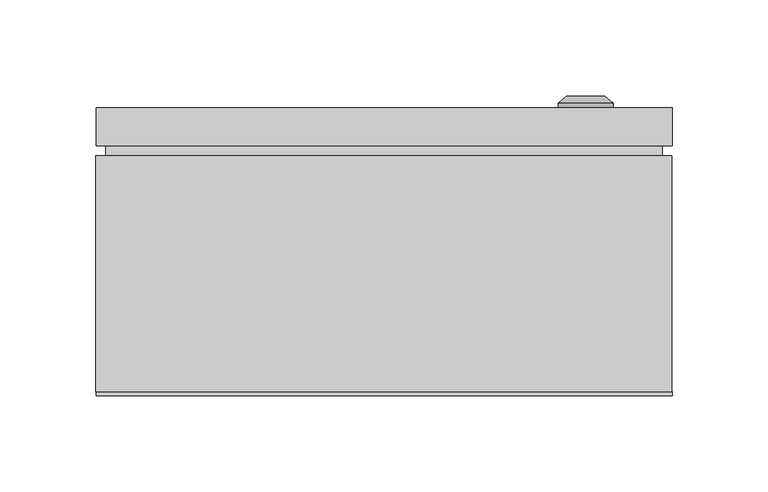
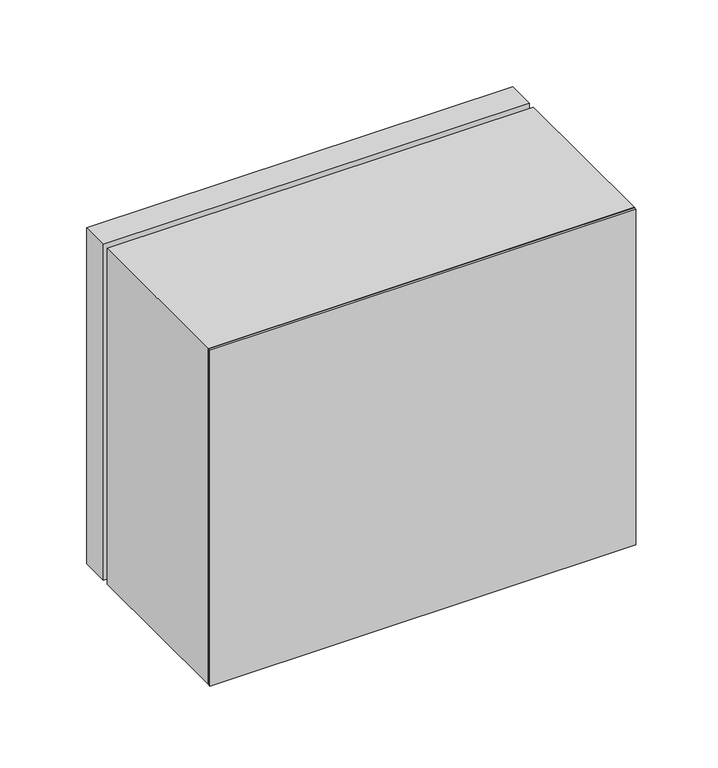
"""IFC4 building model written with IfcOpenShell, lengths in millimetres: proxy geometry, ЩМП_IP65 : ЩМП-2.3.1-0_250х300х150."""

from ifc_helpers import new_model, si_unit, frame, origin, origin_with_axes, place, context, project, spatial, polyline, circle_curve, outline, extrude, source, transform, mapped, element, save
from ifc_brep_helpers import plane_surface, cylinder_surface, revolved_surface, advanced_brep


def electrical_equipment_0470d7b7(model_context):
    return source(origin(), model_context, "Body", "SolidModel", [
        extrude(outline(polyline([(145.0, 125.0), (-145.0, 125.0), (-145.0, 130.0), (145.0, 130.0), (145.0, 125.0)])), frame((0.0, 0.0, 5.0), z_axis=(0.0, 0.0, 1.0), x_axis=(1.0, 0.0, 0.0)), (0.0, 0.0, 1.0), 240.0),
        extrude(outline(polyline([(150.0, 130.0), (-150.0, 130.0), (-150.0, 150.0), (150.0, 150.0), (150.0, 130.0)])), origin_with_axes(), (0.0, 0.0, 1.0), 250.0),
        advanced_brep(
        [(90.669873, 150.0, 125.0), (119.330127, 150.0, 125.0), (105.0, 150.0, 125.0), (90.669873, 152.366592, 125.0), (119.330127, 152.366592, 125.0), (95.0, 156.0, 125.0), (115.0, 156.0, 125.0), (103.1080471, 156.0, 125.0), (106.8919529, 156.0, 125.0), (103.1080471, 154.9822294, 125.0), (106.8919529, 154.9822294, 125.0), (105.0, 154.9822294, 125.0)],
        [
            (0, 1, circle_curve(frame((105.0, 150.0, 125.0), z_axis=(0.0, -1.0, 0.0), x_axis=(1.0, 0.0, 0.0)), 14.330127)),
            (1, 2),
            (2, 0),
            (1, 0, circle_curve(frame((105.0, 150.0, 125.0), z_axis=(0.0, -1.0, 0.0), x_axis=(1.0, 0.0, 0.0)), 14.330127)),
            (3, 4, circle_curve(frame((105.0, 152.366592, 125.0), z_axis=(0.0, -1.0, 0.0), x_axis=(1.0, 0.0, 0.0)), 14.330127)),
            (4, 1),
            (0, 3),
            (4, 3, circle_curve(frame((105.0, 152.366592, 125.0), z_axis=(0.0, -1.0, 0.0), x_axis=(1.0, 0.0, 0.0)), 14.330127)),
            (5, 6, circle_curve(frame((105.0, 156.0, 125.0), z_axis=(0.0, -1.0, 0.0), x_axis=(1.0, 0.0, 0.0)), 10.0)),
            (6, 4),
            (3, 5),
            (6, 5, circle_curve(frame((105.0, 156.0, 125.0), z_axis=(0.0, -1.0, 0.0), x_axis=(1.0, 0.0, 0.0)), 10.0)),
            (7, 8, circle_curve(frame((105.0, 156.0, 125.0), z_axis=(0.0, -1.0, 0.0), x_axis=(1.0, 0.0, 0.0)), 1.8919529)),
            (8, 6),
            (5, 7),
            (8, 7, circle_curve(frame((105.0, 156.0, 125.0), z_axis=(0.0, -1.0, 0.0), x_axis=(1.0, 0.0, 0.0)), 1.8919529)),
            (9, 10, circle_curve(frame((105.0, 154.9822294, 125.0), z_axis=(0.0, -1.0, 0.0), x_axis=(1.0, 0.0, 0.0)), 1.8919529)),
            (10, 8),
            (7, 9),
            (10, 9, circle_curve(frame((105.0, 154.9822294, 125.0), z_axis=(0.0, -1.0, 0.0), x_axis=(1.0, 0.0, 0.0)), 1.8919529)),
            (11, 10),
            (9, 11),
        ],
        [
            plane_surface(frame((105.0, 150.0, 125.0), z_axis=(0.0, -1.0, 0.0), x_axis=(1.0, 0.0, 0.0))),
            cylinder_surface(frame((105.0, 163.1348851, 125.0), z_axis=(0.0, 1.0, 0.0), x_axis=(1.0, 0.0, 0.0)), 14.330127),
            revolved_surface(polyline([(119.330127, 152.366592, 125.0), (115.0, 156.0, 125.0)]), (105.0, 163.1348851, 125.0), (0.0, 1.0, 0.0)),
            plane_surface(frame((105.0, 156.0, 125.0), z_axis=(0.0, 1.0, 0.0), x_axis=(1.0, 0.0, 0.0))),
            revolved_surface(polyline([(106.8919529, 156.0, 125.0), (106.8919529, 154.9822294, 125.0)]), (105.0, 163.1348851, 125.0), (0.0, 1.0, 0.0)),
            plane_surface(frame((105.0, 154.9822294, 125.0), z_axis=(0.0, 1.0, 0.0), x_axis=(1.0, 0.0, 0.0))),
        ],
        [
            (0, [[1, 2, 3]]),
            (0, [[4, -3, -2]]),
            (1, [[5, 6, -1, 7]]),
            (1, [[8, -7, -4, -6]]),
            (2, [[9, 10, -5, 11]]),
            (2, [[12, -11, -8, -10]]),
            (3, [[13, 14, -9, 15]]),
            (3, [[16, -15, -12, -14]]),
            (4, [[17, 18, -13, 19]]),
            (4, [[20, -19, -16, -18]]),
            (5, [[21, -17, 22]]),
            (5, [[-22, -20, -21]]),
        ],
    ),
        extrude(outline(polyline([(250.0, -150.0033905), (0.0, -150.0033905), (0.0, 149.9966095), (250.0, 149.9966095), (250.0, -150.0033905)]), holes=[polyline([(215.0, -115.0033905), (215.0, 114.9966095), (35.0, 114.9966095), (35.0, -115.0033905), (215.0, -115.0033905)])]), frame((0.0, 2.0, 0.0), z_axis=(0.0, 1.0, 0.0), x_axis=(0.0, 0.0, 1.0)), (0.0, 0.0, 1.0), 123.0),
        extrude(outline(polyline([(150.0, 0.0), (-150.0, 0.0), (-150.0, 2.0), (150.0, 2.0), (150.0, 0.0)])), origin_with_axes(), (0.0, 0.0, 1.0), 250.0),
    ])


if __name__ == "__main__":
    model = new_model("IFC4")
    model_context = context("Model", 3, world=origin())
    ifc_project = project(units=[si_unit("LENGTHUNIT", "METRE", prefix="MILLI")], contexts=[model_context])
    site = spatial("IfcSite", under=ifc_project)
    building = spatial("IfcBuilding", under=site)
    placement = place(None, origin())
    electrical_equipment_shape = electrical_equipment_0470d7b7(model_context)
    element("IfcBuildingElementProxy", 1, Name="ЩМП_IP65 : ЩМП-2.3.1-0_250х300х150", ObjectType="ЩМП_IP65 : ЩМП-2.3.1-0_250х300х150", at=placement, inside=building, context=model_context, shape_type="MappedRepresentation", body=[
        mapped(electrical_equipment_shape, transform((0.0, 0.0, 0.0), x_axis=(1.0, 0.0, 0.0), y_axis=(0.0, 1.0, 0.0), z_axis=(0.0, 0.0, 1.0))),
    ])
    save(model, "model.ifc")
